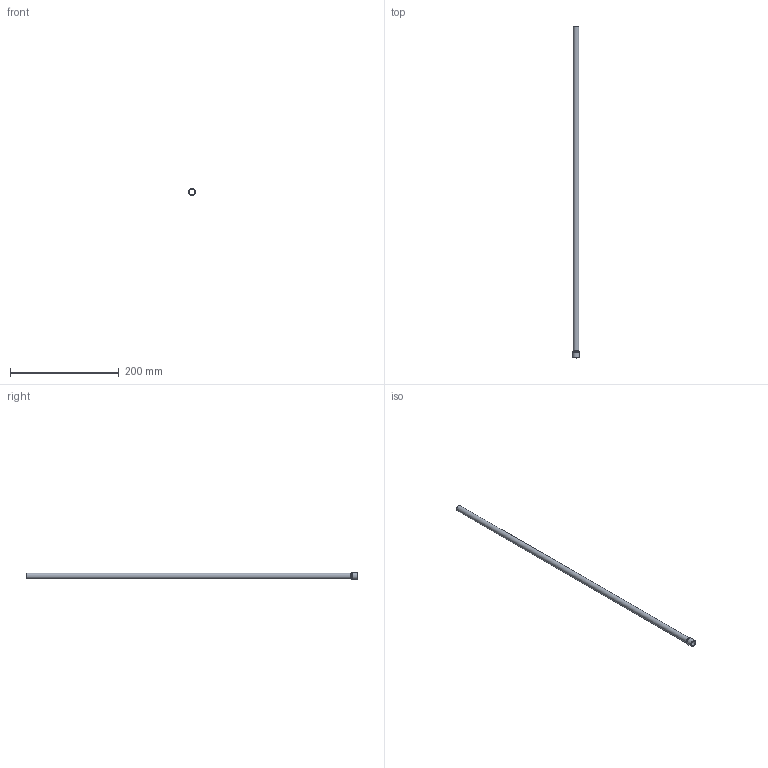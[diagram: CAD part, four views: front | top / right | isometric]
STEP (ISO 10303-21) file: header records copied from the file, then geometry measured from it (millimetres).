
FILE_DESCRIPTION(/* description */ (''),/* implementation_level */ '2;1');
FILE_NAME(/* name */ 'C:/Users/drich/Desktop/HF437T-24 v1.step',/* time_stamp */ '2019-12-30T13:32:44-06:00',/* author */ (''),/* organization */ (''),/* preprocessor_version */ 'ST-DEVELOPER v18',/* originating_system */ 'Autodesk Translation Framework v8.12.0.6',/* authorisation */ '');
FILE_SCHEMA (('AUTOMOTIVE_DESIGN { 1 0 10303 214 3 1 1 }'));
Length unit declared in the file: inch
Products named in the file (1): HF437T-24
Bounding box: 12.75 x 609.6 x 12.75 mm (x, y, z)
Volume: 8042.7 mm3; surface area: 40231.3 mm2
Topology: 1 solids, 1 shells, 12 faces, 30 edges, 22 vertices
Faces by surface type: plane 4, cylinder 4, torus 3, cone 1
Full cylindrical faces by diameter (mm): 10.084 x1, 10.846 x1, 12.565 x1, 12.751 x1
Entity records: 426 total; most frequent: DIRECTION 81, CARTESIAN_POINT 65, ORIENTED_EDGE 60, AXIS2_PLACEMENT_3D 38, EDGE_CURVE 30, CIRCLE 25, VERTEX_POINT 22, EDGE_LOOP 16
